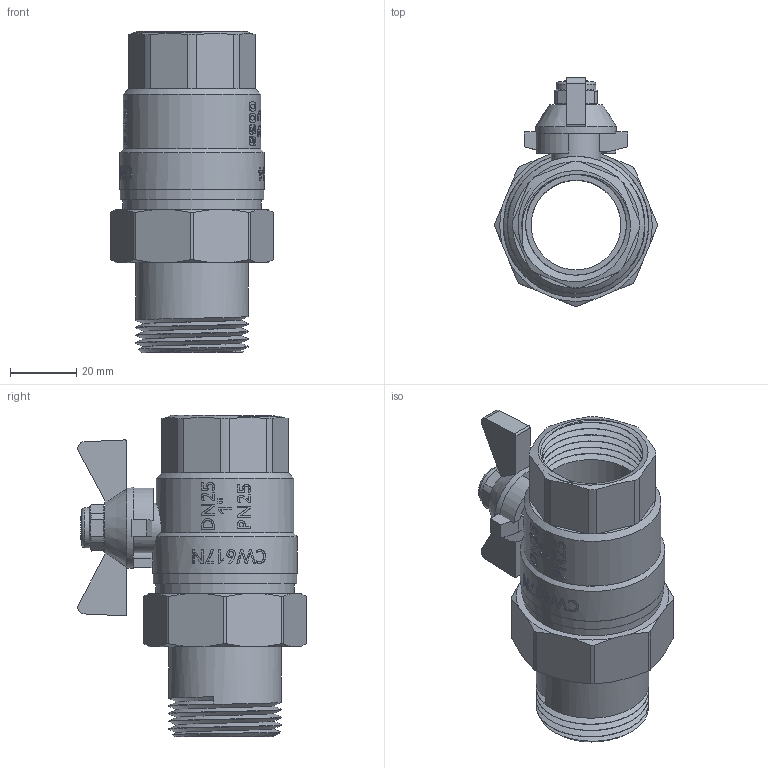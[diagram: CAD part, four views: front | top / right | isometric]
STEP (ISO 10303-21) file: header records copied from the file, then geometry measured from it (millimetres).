
FILE_DESCRIPTION(/* description */ (''),/* implementation_level */ '2;1');
FILE_NAME(/* name */ 'H:\Мишенин_3D\Исходные файлы 3D\VT.227.N.06.stp',/* time_stamp */ '2018-01-17T09:33:12+03:00',/* author */ ('MisheninAL'),/* organization */ (''),/* preprocessor_version */ 'ST-DEVELOPER v16.13',/* originating_system */ 'Autodesk Inventor 2018',/* authorisation */ '');
FILE_SCHEMA (('AUTOMOTIVE_DESIGN { 1 0 10303 214 3 1 1 }'));
Length unit declared in the file: millimetre
Products named in the file (1): VT.214_ВВ_1
Bounding box: 48.87 x 68.75 x 96.66 mm (x, y, z)
Volume: 65835.5 mm3; surface area: 29441.8 mm2
Topology: 1 solids, 1 shells, 517 faces, 1399 edges, 928 vertices
Faces by surface type: plane 223, bspline 178, cylinder 90, cone 25, torus 1
Full cylindrical faces by diameter (mm): 7.791 x1, 12.011 x1, 14.932 x1, 24.322 x1, 27 x1, 30.3 x7, 33.96 x3, 41.272 x1, 41.673 x1, 43.106 x1, 43.545 x1
Entity records: 24117 total; most frequent: CARTESIAN_POINT 12492, ORIENTED_EDGE 2690, DIRECTION 1936, EDGE_CURVE 1345, VERTEX_POINT 900, AXIS2_PLACEMENT_3D 660, LINE 616, VECTOR 616
